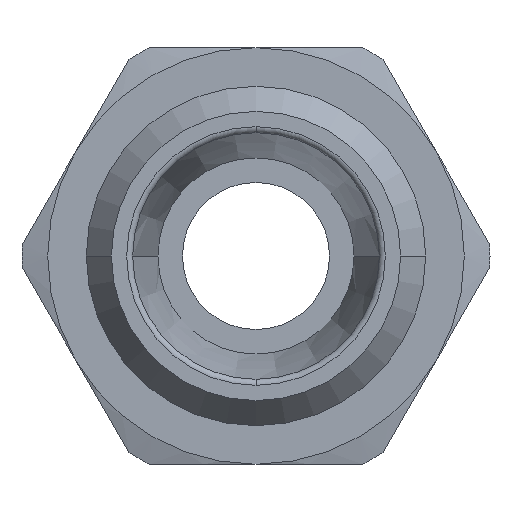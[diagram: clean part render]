
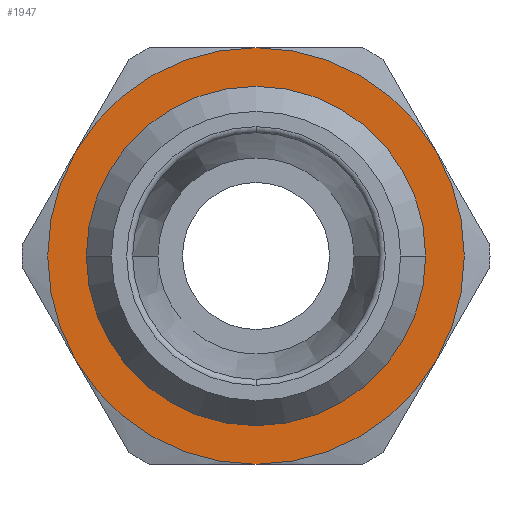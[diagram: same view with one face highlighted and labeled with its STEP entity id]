
A CAD part, left-side view. The second image highlights one B-rep face of the part: STEP entity #1947.
In plain terms, the highlighted planar face has unit normal (-1, 0, 0) as drawn and (0, 0, 1) by its records, which use the part's own axes.
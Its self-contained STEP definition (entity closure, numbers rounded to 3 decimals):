
#857=CARTESIAN_POINT('',(-6.8,0.,2.5));
#858=VERTEX_POINT('',#857);
#884=CARTESIAN_POINT('',(6.8,0.,2.5));
#885=VERTEX_POINT('',#884);
#893=CARTESIAN_POINT('',(0.,0.0,2.5));
#894=DIRECTION('',(0.0,0.0,1.0));
#895=DIRECTION('',(-1.0,0.0,0.0));
#896=AXIS2_PLACEMENT_3D('',#893,#894,#895);
#897=CIRCLE('',#896,6.8);
#898=EDGE_CURVE('',#885,#858,#897,.T.);
#1827=CARTESIAN_POINT('',(0.,-6.8,2.5));
#1828=VERTEX_POINT('',#1827);
#1829=CARTESIAN_POINT('',(0.,0.0,2.5));
#1830=DIRECTION('',(0.0,0.0,1.0));
#1831=DIRECTION('',(-1.0,0.0,0.0));
#1832=AXIS2_PLACEMENT_3D('',#1829,#1830,#1831);
#1833=CIRCLE('',#1832,6.8);
#1834=EDGE_CURVE('',#858,#1828,#1833,.T.);
#1836=CARTESIAN_POINT('',(0.,0.0,2.5));
#1837=DIRECTION('',(0.0,0.0,1.0));
#1838=DIRECTION('',(-1.0,0.0,0.0));
#1839=AXIS2_PLACEMENT_3D('',#1836,#1837,#1838);
#1840=CIRCLE('',#1839,6.8);
#1841=EDGE_CURVE('',#1828,#885,#1840,.T.);
#1881=CARTESIAN_POINT('',(0.0,0.,2.5));
#1882=DIRECTION('',(0.0,0.0,1.0));
#1883=DIRECTION('',(1.0,0.0,0.0));
#1884=AXIS2_PLACEMENT_3D('',#1881,#1882,#1883);
#1885=PLANE('',#1884);
#1886=CARTESIAN_POINT('',(4.25,-7.361,2.5));
#1887=VERTEX_POINT('',#1886);
#1888=CARTESIAN_POINT('',(8.5,0.0,2.5));
#1889=VERTEX_POINT('',#1888);
#1890=CARTESIAN_POINT('',(0.,0.0,2.5));
#1891=DIRECTION('',(0.0,0.0,1.0));
#1892=DIRECTION('',(1.0,0.0,0.0));
#1893=AXIS2_PLACEMENT_3D('',#1890,#1891,#1892);
#1894=CIRCLE('',#1893,8.5);
#1895=EDGE_CURVE('',#1887,#1889,#1894,.T.);
#1896=ORIENTED_EDGE('',*,*,#1895,.T.);
#1897=CARTESIAN_POINT('',(4.25,7.361,2.5));
#1898=VERTEX_POINT('',#1897);
#1899=CARTESIAN_POINT('',(0.,0.0,2.5));
#1900=DIRECTION('',(0.0,0.0,1.0));
#1901=DIRECTION('',(1.0,0.0,0.0));
#1902=AXIS2_PLACEMENT_3D('',#1899,#1900,#1901);
#1903=CIRCLE('',#1902,8.5);
#1904=EDGE_CURVE('',#1889,#1898,#1903,.T.);
#1905=ORIENTED_EDGE('',*,*,#1904,.T.);
#1906=CARTESIAN_POINT('',(-4.25,7.361,2.5));
#1907=VERTEX_POINT('',#1906);
#1908=CARTESIAN_POINT('',(0.,0.0,2.5));
#1909=DIRECTION('',(0.0,0.0,1.0));
#1910=DIRECTION('',(1.0,0.0,0.0));
#1911=AXIS2_PLACEMENT_3D('',#1908,#1909,#1910);
#1912=CIRCLE('',#1911,8.5);
#1913=EDGE_CURVE('',#1898,#1907,#1912,.T.);
#1914=ORIENTED_EDGE('',*,*,#1913,.T.);
#1915=CARTESIAN_POINT('',(-8.5,0.,2.5));
#1916=VERTEX_POINT('',#1915);
#1917=CARTESIAN_POINT('',(0.,0.0,2.5));
#1918=DIRECTION('',(0.0,0.0,1.0));
#1919=DIRECTION('',(1.0,0.0,0.0));
#1920=AXIS2_PLACEMENT_3D('',#1917,#1918,#1919);
#1921=CIRCLE('',#1920,8.5);
#1922=EDGE_CURVE('',#1907,#1916,#1921,.T.);
#1923=ORIENTED_EDGE('',*,*,#1922,.T.);
#1924=CARTESIAN_POINT('',(-4.25,-7.361,2.5));
#1925=VERTEX_POINT('',#1924);
#1926=CARTESIAN_POINT('',(0.,0.0,2.5));
#1927=DIRECTION('',(0.0,0.0,1.0));
#1928=DIRECTION('',(1.0,0.0,0.0));
#1929=AXIS2_PLACEMENT_3D('',#1926,#1927,#1928);
#1930=CIRCLE('',#1929,8.5);
#1931=EDGE_CURVE('',#1916,#1925,#1930,.T.);
#1932=ORIENTED_EDGE('',*,*,#1931,.T.);
#1933=CARTESIAN_POINT('',(0.,0.0,2.5));
#1934=DIRECTION('',(0.0,0.0,1.0));
#1935=DIRECTION('',(1.0,0.0,0.0));
#1936=AXIS2_PLACEMENT_3D('',#1933,#1934,#1935);
#1937=CIRCLE('',#1936,8.5);
#1938=EDGE_CURVE('',#1925,#1887,#1937,.T.);
#1939=ORIENTED_EDGE('',*,*,#1938,.T.);
#1940=EDGE_LOOP('',(#1896,#1905,#1914,#1923,#1932,#1939));
#1941=FACE_OUTER_BOUND('',#1940,.T.);
#1942=ORIENTED_EDGE('',*,*,#1841,.F.);
#1943=ORIENTED_EDGE('',*,*,#1834,.F.);
#1944=ORIENTED_EDGE('',*,*,#898,.F.);
#1945=EDGE_LOOP('',(#1942,#1943,#1944));
#1946=FACE_BOUND('',#1945,.T.);
#1947=ADVANCED_FACE('',(#1941,#1946),#1885,.T.);
